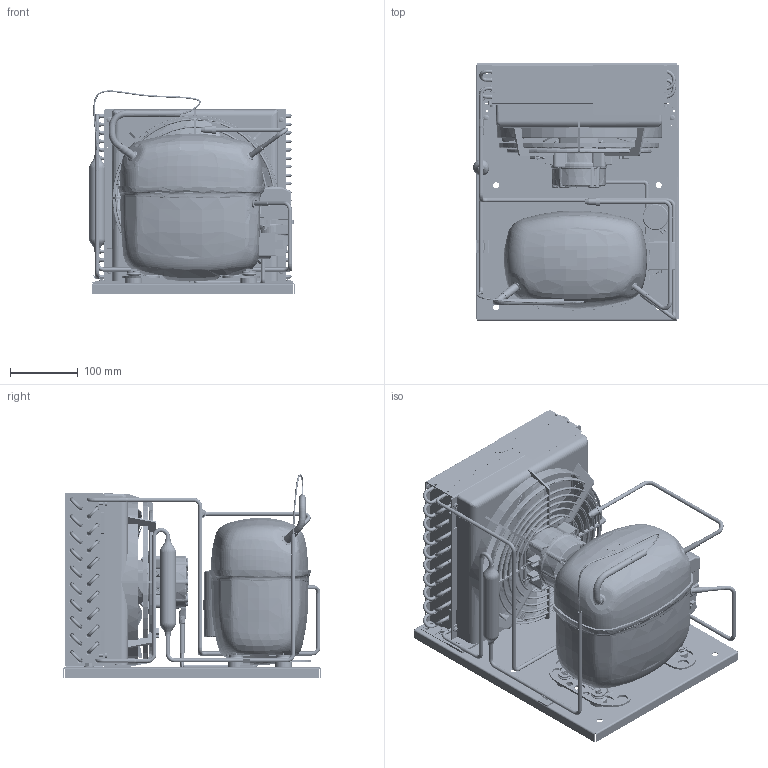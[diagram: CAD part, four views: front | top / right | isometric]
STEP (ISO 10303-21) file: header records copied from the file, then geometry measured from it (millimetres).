
FILE_DESCRIPTION(/* description */ ('Unknown'),/* implementation_level */ '2;1');
FILE_NAME(/* name */ '2298-0072',/* time_stamp */ '2022-03-23T14:30:05+01:00',/* author */ ('Unknown'),/* organization */ ('Unknown'),/* preprocessor_version */ 'ST-DEVELOPER v16.7',/* originating_system */ 'Solid Edge',/* authorisation */ 'Unknown');
FILE_SCHEMA (('AUTOMOTIVE_DESIGN {1 0 10303 214 3 1 1}'));
Products named in the file (41): 2298-0072; 92505123_oa_0; 1040240fi0_oa_1; rl5004206; rl5004207; r59500291; rl5011001; 2905051822; rl5003904; rn5003208; 6803-1610; 84a4.2x9.5xtbcf01; cg230n; 118-3661; a230-28; 62010150; 118-7353; 55300398; 84RM10X21XXPIAF00; 9221-0002; 84dm4x3.6xxesrf00; 99000324; 99000327; 99000326; 99000321; 99000205; 84fm6x8xxxxtesf00; 84DM6X5.2XXESRF00; 99100226; 680065982; GFN30_62-62; 680065977; 99000082_SECOP_F-GAS; 99000082; 6803-1593; 99540010; 6805-1350; 7000-0294; 99500100_oa_2; 2298-0072 CAVO_VENTOLA_oa_3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
Assembly tree (97 placements, depth 3):
  2298-0072
    92505123_oa_0
    1040240fi0_oa_1
      rl5004206
      rl5004207
      r59500291  x20
      rl5011001
      2905051822  x19
      rl5003904  x2
      rn5003208
    6803-1610
    84a4.2x9.5xtbcf01  x6
    cg230n
    118-3661  x4
    a230-28
    62010150
    118-7353  x4
    55300398
    84RM10X21XXPIAF00  x4
    9221-0002
    84dm4x3.6xxesrf00  x4
    99000324
    99000327
    99000326
    99000321
    99000205
    84fm6x8xxxxtesf00  x2
    84DM6X5.2XXESRF00  x2
    99100226
    680065982
    GFN30_62-62
    680065977
    99000082_SECOP_F-GAS
    99000082
    6803-1593
    99540010
    6805-1350
    7000-0294
    99500100_oa_2
    2298-0072 CAVO_VENTOLA_oa_3
    2992137_oa_4
Bounding box: 304 x 380 x 299.97 mm (x, y, z)
Volume: 4189686.5 mm3; surface area: 2061498.1 mm2
Topology: 101 solids, 107 shells, 12965 faces, 33879 edges, 21681 vertices
Faces by surface type: plane 5966, cylinder 2733, bspline 1957, torus 1506, cone 691, sphere 112
Full cylindrical faces by diameter (mm): 1.2 x4, 1.3 x2, 1.8 x2, 1.945 x3, 2 x20, 2.2 x4, 2.31 x5, 2.45 x6, 3 x2, 3.14 x6, 3.2 x2, 3.242 x4, 3.375 x1, 3.5 x18, 3.6 x4, 4 x47, 4.2 x26, 4.205 x11, 4.5 x47, 5 x98, 5.2 x2, 5.222 x1, 5.48 x73, 5.5 x10, 6 x27, 6.2 x4, 6.9 x1, 7 x20, 7.48 x73, 7.5 x38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
Entity records: 646699 total; most frequent: CARTESIAN_POINT 310709, ORIENTED_EDGE 61366, DIRECTION 47281, EDGE_CURVE 30683, VERTEX_POINT 20278, AXIS2_PLACEMENT_3D 17861, EDGE_LOOP 14803, FACE_BOUND 14803
